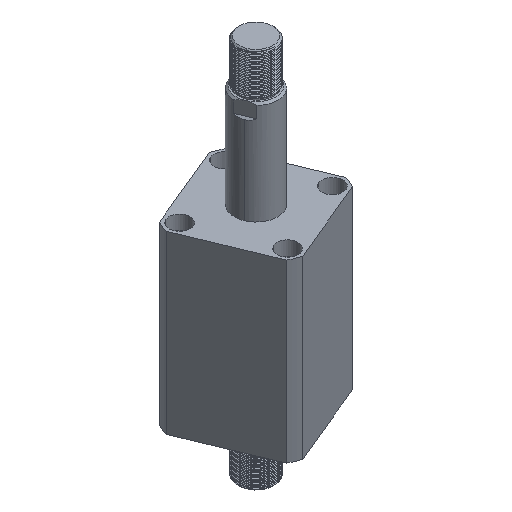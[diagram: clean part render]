
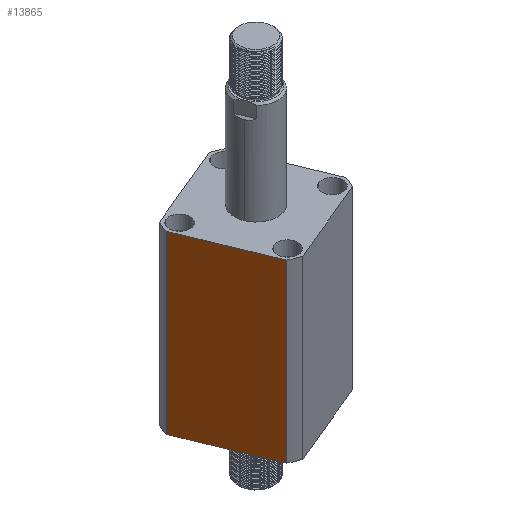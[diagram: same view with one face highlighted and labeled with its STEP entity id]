
A CAD part, isometric view. The second image highlights one B-rep face of the part: STEP entity #13865.
In plain terms, the highlighted planar face has unit normal (-0.924, -0.383, 0) as drawn and (0, 1, 0) by its records, which use the part's own axes.
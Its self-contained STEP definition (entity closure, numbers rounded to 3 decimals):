
#94 = AXIS2_PLACEMENT_3D ( 'NONE', #25377, #3749, #17895 ) ;
#1704 = PLANE ( 'NONE',  #94 ) ;
#2607 = ORIENTED_EDGE ( 'NONE', *, *, #6581, .F. ) ;
#3749 = DIRECTION ( 'NONE',  ( 0., -1., 0. ) ) ;
#3934 = EDGE_CURVE ( 'NONE', #18405, #5488, #25568, .T. ) ;
#5190 = ORIENTED_EDGE ( 'NONE', *, *, #3934, .F. ) ;
#5488 = VERTEX_POINT ( 'NONE', #7914 ) ;
#6508 = CARTESIAN_POINT ( 'NONE',  ( -47.971, 57., 183. ) ) ;
#6581 = EDGE_CURVE ( 'NONE', #5488, #21062, #20822, .T. ) ;
#6861 = EDGE_LOOP ( 'NONE', ( #5190, #15299, #18732, #2607 ) ) ;
#7042 = CARTESIAN_POINT ( 'NONE',  ( 47.971, 57., -117. ) ) ;
#7401 = CARTESIAN_POINT ( 'NONE',  ( -47.971, 57., 0. ) ) ;
#7914 = CARTESIAN_POINT ( 'NONE',  ( 47.971, 57., 183. ) ) ;
#9728 = CARTESIAN_POINT ( 'NONE',  ( -57., 57., 0. ) ) ;
#10048 = CARTESIAN_POINT ( 'NONE',  ( -47.971, 57., -117. ) ) ;
#11087 = EDGE_CURVE ( 'NONE', #18405, #18174, #23330, .T. ) ;
#11950 = CARTESIAN_POINT ( 'NONE',  ( 47.971, 57., 0. ) ) ;
#12842 = DIRECTION ( 'NONE',  ( -1., 0., 0. ) ) ;
#13125 = DIRECTION ( 'NONE',  ( 0., 0., 1. ) ) ;
#13865 = ADVANCED_FACE ( 'NONE', ( #22705 ), #1704, .F. ) ;
#15299 = ORIENTED_EDGE ( 'NONE', *, *, #11087, .T. ) ;
#15488 = VECTOR ( 'NONE', #12842, 1000. ) ;
#17835 = VECTOR ( 'NONE', #22136, 1000. ) ;
#17895 = DIRECTION ( 'NONE',  ( 0., 0., -1. ) ) ;
#18174 = VERTEX_POINT ( 'NONE', #7401 ) ;
#18405 = VERTEX_POINT ( 'NONE', #11950 ) ;
#18732 = ORIENTED_EDGE ( 'NONE', *, *, #20909, .F. ) ;
#20209 = VECTOR ( 'NONE', #13125, 1000. ) ;
#20358 = LINE ( 'NONE', #10048, #17835 ) ;
#20822 = LINE ( 'NONE', #24916, #15488 ) ;
#20909 = EDGE_CURVE ( 'NONE', #21062, #18174, #20358, .T. ) ;
#21062 = VERTEX_POINT ( 'NONE', #6508 ) ;
#21822 = DIRECTION ( 'NONE',  ( -1., 0., 0. ) ) ;
#22033 = VECTOR ( 'NONE', #21822, 1000. ) ;
#22136 = DIRECTION ( 'NONE',  ( 0., 0., -1. ) ) ;
#22705 = FACE_OUTER_BOUND ( 'NONE', #6861, .T. ) ;
#23330 = LINE ( 'NONE', #9728, #22033 ) ;
#24916 = CARTESIAN_POINT ( 'NONE',  ( -57., 57., 183. ) ) ;
#25377 = CARTESIAN_POINT ( 'NONE',  ( -57., 57., 183. ) ) ;
#25568 = LINE ( 'NONE', #7042, #20209 ) ;
